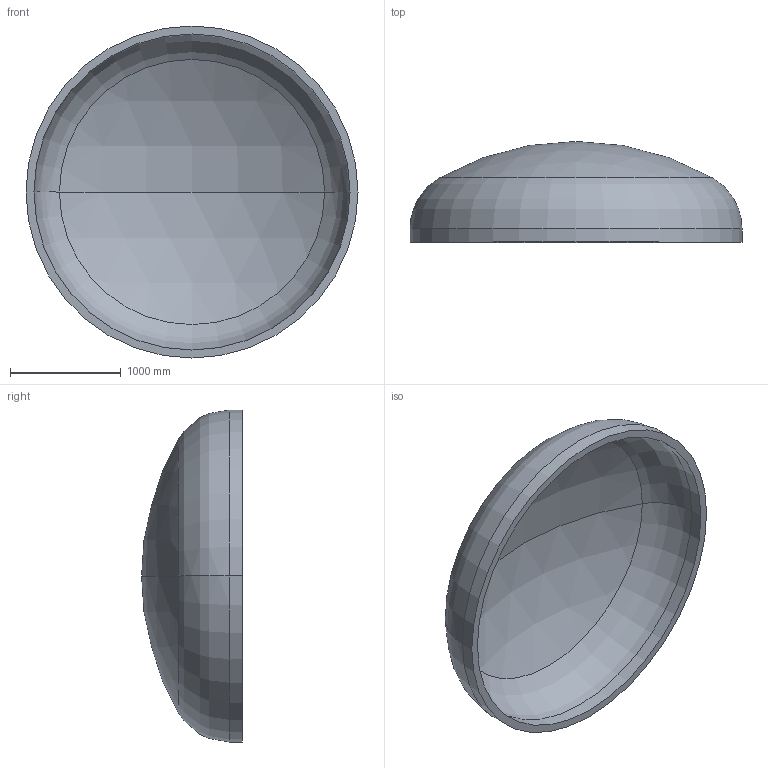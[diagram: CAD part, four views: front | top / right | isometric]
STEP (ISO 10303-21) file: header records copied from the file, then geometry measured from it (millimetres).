
FILE_DESCRIPTION (( 'STEP AP203' ), '1' );
FILE_NAME ('DIN 28013 Korbbogenform_-_Boden DIN 28013 - 3000 x 120 - I - s=72.step', '2016-07-01T17:58:31', ( '' ), ( '' ), 'SwSTEP 2.0', 'SolidWorks 2013', '' );
FILE_SCHEMA (( 'CONFIG_CONTROL_DESIGN' ));
Length unit declared in the file: millimetre
Products named in the file (1): DIN 28013 Korbbogenform_-_Boden DIN 28013 - 3000 x 120 - I - s=72
Bounding box: 3000 x 910.76 x 3000 mm (x, y, z)
Volume: 761898207.3 mm3; surface area: 21836987.4 mm2
Topology: 1 solids, 1 shells, 13 faces, 24 edges, 14 vertices
Faces by surface type: torus 4, cylinder 4, sphere 4, plane 1
Entity records: 407 total; most frequent: DIRECTION 72, CARTESIAN_POINT 52, ORIENTED_EDGE 48, AXIS2_PLACEMENT_3D 34, EDGE_CURVE 24, CIRCLE 20, EDGE_LOOP 14, VERTEX_POINT 14
